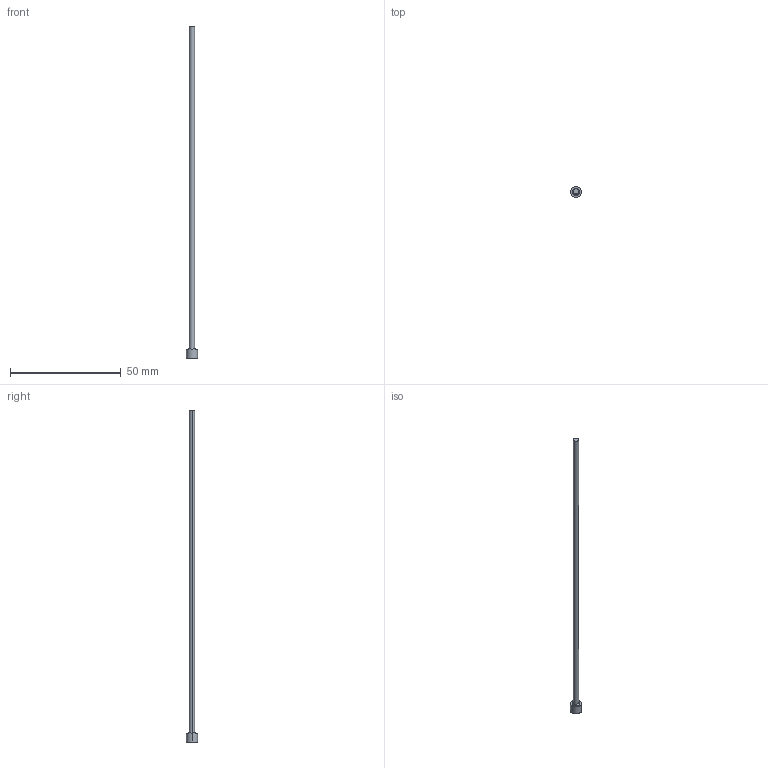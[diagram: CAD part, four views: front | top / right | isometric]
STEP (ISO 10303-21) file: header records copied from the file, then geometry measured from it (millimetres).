
FILE_DESCRIPTION (( 'STEP AP214' ), '1' );
FILE_NAME ('EPHE-B2.4-150.step', '2024-04-11T21:23:07', ( '' ), ( '' ), 'SwSTEP 2.0', 'SolidWorks 2017', '' );
FILE_SCHEMA (( 'AUTOMOTIVE_DESIGN' ));
Length unit declared in the file: millimetre
Products named in the file (1): EPHE-B2.4-150
Bounding box: 5 x 5 x 150 mm (x, y, z)
Volume: 739.5 mm3; surface area: 1201.4 mm2
Topology: 1 solids, 1 shells, 9 faces, 16 edges, 10 vertices
Faces by surface type: cylinder 4, plane 3, torus 2
Entity records: 260 total; most frequent: DIRECTION 48, CARTESIAN_POINT 36, ORIENTED_EDGE 32, AXIS2_PLACEMENT_3D 22, EDGE_CURVE 16, CIRCLE 12, VERTEX_POINT 10, EDGE_LOOP 10
